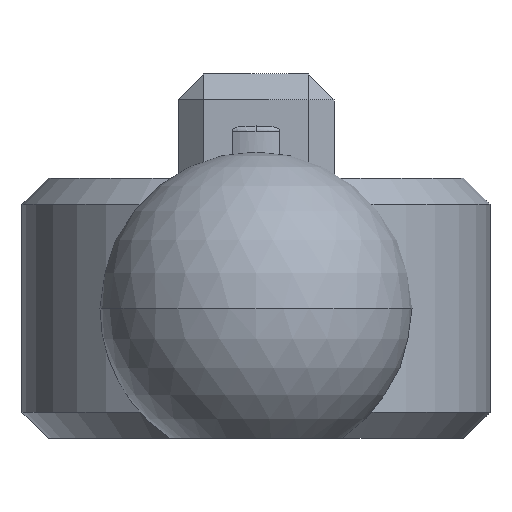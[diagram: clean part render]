
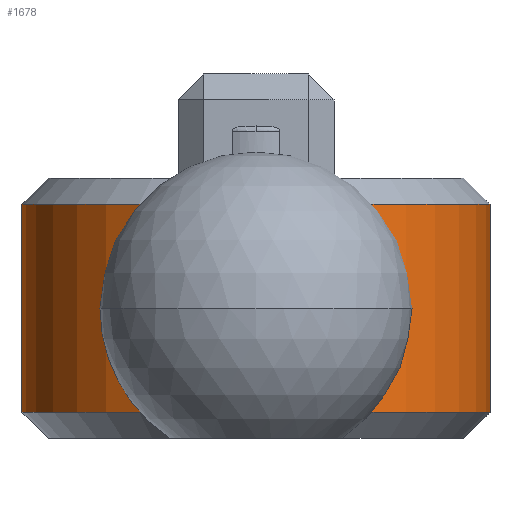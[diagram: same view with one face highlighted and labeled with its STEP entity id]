
A CAD part, front view. The second image highlights one B-rep face of the part: STEP entity #1678.
In plain terms, the highlighted cylindrical face has radius 4.5 mm (diameter 9 mm), a partial arc.
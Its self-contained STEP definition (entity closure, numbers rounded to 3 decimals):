
#45 = CARTESIAN_POINT ( 'NONE',  ( 0.1, 0., 4. ) ) ;
#86 = DIRECTION ( 'NONE',  ( 0., 0., 1. ) ) ;
#99 = CARTESIAN_POINT ( 'NONE',  ( -4.5, 4.5, 2.5 ) ) ;
#141 = B_SPLINE_CURVE_WITH_KNOTS ( 'NONE', 3,
 ( #1897, #1515, #672, #1694, #2533, #1297, #492, #2118, #2332, #275, #1090, #1723, #1307, #2129, #1528, #1101, #2343, #1923, #2546, #703, #997, #2632, #1773, #2002, #980, #1176, #1584, #1186 ),
 .UNSPECIFIED., .F., .F.,
 ( 4, 2, 2, 2, 2, 2, 2, 2, 2, 2, 2, 2, 2, 4 ),
 ( 0.005, 0.005, 0.006, 0.006, 0.006, 0.007, 0.007, 0.007, 0.008, 0.008, 0.009, 0.009, 0.009, 0.009 ),
 .UNSPECIFIED. ) ;
#275 = CARTESIAN_POINT ( 'NONE',  ( -1.423, 0.231, 2.015 ) ) ;
#301 = CARTESIAN_POINT ( 'NONE',  ( 1.198, 0.16, 3.423 ) ) ;
#304 = EDGE_CURVE ( 'NONE', #789, #918, #1796, .T. ) ;
#317 = CARTESIAN_POINT ( 'NONE',  ( 0.666, 0.049, 1.153 ) ) ;
#463 = CARTESIAN_POINT ( 'NONE',  ( 0.395, 0.014, 1.04 ) ) ;
#479 = AXIS2_PLACEMENT_3D ( 'NONE', #1719, #86, #2542 ) ;
#485 = CARTESIAN_POINT ( 'NONE',  ( 4.5, 4.5, 0.5 ) ) ;
#492 = CARTESIAN_POINT ( 'NONE',  ( -0.992, 0.11, 1.37 ) ) ;
#514 = CIRCLE ( 'NONE', #1754, 4.5 ) ;
#519 = CARTESIAN_POINT ( 'NONE',  ( 0.916, 0.093, 1.308 ) ) ;
#581 = CARTESIAN_POINT ( 'NONE',  ( 4.5, 4.5, 4.5 ) ) ;
#656 = ORIENTED_EDGE ( 'NONE', *, *, #2492, .T. ) ;
#671 = CARTESIAN_POINT ( 'NONE',  ( 1.5, 0.257, 2.698 ) ) ;
#672 = CARTESIAN_POINT ( 'NONE',  ( -0.395, 0.014, 1.04 ) ) ;
#689 = CARTESIAN_POINT ( 'NONE',  ( 0.754, 0.063, 1.2 ) ) ;
#703 = CARTESIAN_POINT ( 'NONE',  ( -0.992, 0.11, 3.629 ) ) ;
#712 = VERTEX_POINT ( 'NONE', #1370 ) ;
#732 = VECTOR ( 'NONE', #1360, 1000. ) ;
#736 = EDGE_CURVE ( 'NONE', #918, #2566, #1572, .T. ) ;
#789 = VERTEX_POINT ( 'NONE', #1466 ) ;
#822 = DIRECTION ( 'NONE',  ( 0., 0., 1. ) ) ;
#871 = CARTESIAN_POINT ( 'NONE',  ( 0.758, 0.061, 3.809 ) ) ;
#873 = EDGE_CURVE ( 'NONE', #712, #2566, #514, .T. ) ;
#898 = CARTESIAN_POINT ( 'NONE',  ( 1.423, 0.231, 2.015 ) ) ;
#916 = EDGE_LOOP ( 'NONE', ( #1198, #656 ) ) ;
#918 = VERTEX_POINT ( 'NONE', #485 ) ;
#980 = CARTESIAN_POINT ( 'NONE',  ( -0.391, 0.016, 3.952 ) ) ;
#981 = AXIS2_PLACEMENT_3D ( 'NONE', #1427, #822, #2251 ) ;
#997 = CARTESIAN_POINT ( 'NONE',  ( -0.916, 0.093, 3.692 ) ) ;
#1088 = CARTESIAN_POINT ( 'NONE',  ( 0.198, 0.003, 3.99 ) ) ;
#1090 = CARTESIAN_POINT ( 'NONE',  ( -1.451, 0.24, 2.109 ) ) ;
#1100 = CARTESIAN_POINT ( 'NONE',  ( 1.198, 0.16, 1.577 ) ) ;
#1101 = CARTESIAN_POINT ( 'NONE',  ( -1.452, 0.241, 2.891 ) ) ;
#1119 = CARTESIAN_POINT ( 'NONE',  ( 1.309, 0.194, 1.741 ) ) ;
#1131 = CARTESIAN_POINT ( 'NONE',  ( 1.451, 0.24, 2.109 ) ) ;
#1176 = CARTESIAN_POINT ( 'NONE',  ( -0.198, 0.003, 3.99 ) ) ;
#1186 = CARTESIAN_POINT ( 'NONE',  ( 0., 0., 4. ) ) ;
#1198 = ORIENTED_EDGE ( 'NONE', *, *, #1361, .T. ) ;
#1208 = B_SPLINE_CURVE_WITH_KNOTS ( 'NONE', 3,
 ( #1907, #45, #1088, #1527, #2306, #871, #2518, #301, #2356, #2532, #671, #2342, #2159, #1131, #898, #1119, #1100, #1502, #519, #689, #317, #463, #1952, #1282 ),
 .UNSPECIFIED., .F., .F.,
 ( 4, 2, 2, 2, 2, 2, 2, 2, 2, 2, 2, 4 ),
 ( 0., 0., 0.001, 0.001, 0.002, 0.002, 0.003, 0.003, 0.004, 0.004, 0.004, 0.005 ),
 .UNSPECIFIED. ) ;
#1243 = DIRECTION ( 'NONE',  ( 0., 0., 1. ) ) ;
#1253 = ORIENTED_EDGE ( 'NONE', *, *, #1779, .F. ) ;
#1282 = CARTESIAN_POINT ( 'NONE',  ( 0., 0., 1. ) ) ;
#1297 = CARTESIAN_POINT ( 'NONE',  ( -0.917, 0.094, 1.309 ) ) ;
#1307 = CARTESIAN_POINT ( 'NONE',  ( -1.5, 0.257, 2.401 ) ) ;
#1360 = DIRECTION ( 'NONE',  ( 0., 0., 1. ) ) ;
#1361 = EDGE_CURVE ( 'NONE', #2330, #2220, #1208, .T. ) ;
#1370 = CARTESIAN_POINT ( 'NONE',  ( -4.5, 4.5, 4.5 ) ) ;
#1427 = CARTESIAN_POINT ( 'NONE',  ( 0., 4.5, 0.5 ) ) ;
#1466 = CARTESIAN_POINT ( 'NONE',  ( -4.5, 4.5, 0.5 ) ) ;
#1501 = ORIENTED_EDGE ( 'NONE', *, *, #873, .F. ) ;
#1502 = CARTESIAN_POINT ( 'NONE',  ( 0.991, 0.11, 1.37 ) ) ;
#1505 = ORIENTED_EDGE ( 'NONE', *, *, #736, .T. ) ;
#1515 = CARTESIAN_POINT ( 'NONE',  ( -0.197, 0., 1. ) ) ;
#1527 = CARTESIAN_POINT ( 'NONE',  ( 0.391, 0.016, 3.952 ) ) ;
#1528 = CARTESIAN_POINT ( 'NONE',  ( -1.49, 0.254, 2.697 ) ) ;
#1572 = LINE ( 'NONE', #1791, #2569 ) ;
#1584 = CARTESIAN_POINT ( 'NONE',  ( -0.1, 0., 4. ) ) ;
#1607 = CARTESIAN_POINT ( 'NONE',  ( 0., 0., 1. ) ) ;
#1678 = ADVANCED_FACE ( 'NONE', ( #2329, #2555 ), #1680, .T. ) ;
#1680 = CYLINDRICAL_SURFACE ( 'NONE', #479, 4.5 ) ;
#1694 = CARTESIAN_POINT ( 'NONE',  ( -0.667, 0.049, 1.153 ) ) ;
#1706 = ORIENTED_EDGE ( 'NONE', *, *, #304, .T. ) ;
#1719 = CARTESIAN_POINT ( 'NONE',  ( 0., 4.5, 2.5 ) ) ;
#1723 = CARTESIAN_POINT ( 'NONE',  ( -1.49, 0.254, 2.301 ) ) ;
#1754 = AXIS2_PLACEMENT_3D ( 'NONE', #1842, #1243, #1827 ) ;
#1773 = CARTESIAN_POINT ( 'NONE',  ( -0.668, 0.049, 3.847 ) ) ;
#1779 = EDGE_CURVE ( 'NONE', #789, #712, #2584, .T. ) ;
#1791 = CARTESIAN_POINT ( 'NONE',  ( 4.5, 4.5, 2.5 ) ) ;
#1796 = CIRCLE ( 'NONE', #981, 4.5 ) ;
#1827 = DIRECTION ( 'NONE',  ( 1., 0., 0. ) ) ;
#1842 = CARTESIAN_POINT ( 'NONE',  ( 0., 4.5, 4.5 ) ) ;
#1853 = DIRECTION ( 'NONE',  ( 0., 0., 1. ) ) ;
#1897 = CARTESIAN_POINT ( 'NONE',  ( 0., 0., 1. ) ) ;
#1907 = CARTESIAN_POINT ( 'NONE',  ( 0., 0., 4. ) ) ;
#1923 = CARTESIAN_POINT ( 'NONE',  ( -1.31, 0.194, 3.257 ) ) ;
#1952 = CARTESIAN_POINT ( 'NONE',  ( 0.197, 0., 1. ) ) ;
#2002 = CARTESIAN_POINT ( 'NONE',  ( -0.486, 0.025, 3.922 ) ) ;
#2053 = EDGE_LOOP ( 'NONE', ( #1253, #1706, #1505, #1501 ) ) ;
#2086 = CARTESIAN_POINT ( 'NONE',  ( 0., 0., 4. ) ) ;
#2118 = CARTESIAN_POINT ( 'NONE',  ( -1.199, 0.16, 1.578 ) ) ;
#2129 = CARTESIAN_POINT ( 'NONE',  ( -1.5, 0.257, 2.599 ) ) ;
#2159 = CARTESIAN_POINT ( 'NONE',  ( 1.49, 0.254, 2.302 ) ) ;
#2220 = VERTEX_POINT ( 'NONE', #1607 ) ;
#2251 = DIRECTION ( 'NONE',  ( 1., 0., 0. ) ) ;
#2306 = CARTESIAN_POINT ( 'NONE',  ( 0.486, 0.025, 3.922 ) ) ;
#2329 = FACE_OUTER_BOUND ( 'NONE', #2053, .T. ) ;
#2330 = VERTEX_POINT ( 'NONE', #2086 ) ;
#2332 = CARTESIAN_POINT ( 'NONE',  ( -1.309, 0.194, 1.742 ) ) ;
#2342 = CARTESIAN_POINT ( 'NONE',  ( 1.5, 0.257, 2.402 ) ) ;
#2343 = CARTESIAN_POINT ( 'NONE',  ( -1.422, 0.231, 2.986 ) ) ;
#2356 = CARTESIAN_POINT ( 'NONE',  ( 1.31, 0.194, 3.257 ) ) ;
#2492 = EDGE_CURVE ( 'NONE', #2220, #2330, #141, .T. ) ;
#2518 = CARTESIAN_POINT ( 'NONE',  ( 0.924, 0.094, 3.698 ) ) ;
#2532 = CARTESIAN_POINT ( 'NONE',  ( 1.46, 0.243, 2.896 ) ) ;
#2533 = CARTESIAN_POINT ( 'NONE',  ( -0.755, 0.063, 1.2 ) ) ;
#2542 = DIRECTION ( 'NONE',  ( 1., 0., 0. ) ) ;
#2546 = CARTESIAN_POINT ( 'NONE',  ( -1.198, 0.16, 3.423 ) ) ;
#2555 = FACE_BOUND ( 'NONE', #916, .T. ) ;
#2566 = VERTEX_POINT ( 'NONE', #581 ) ;
#2569 = VECTOR ( 'NONE', #1853, 1000. ) ;
#2584 = LINE ( 'NONE', #99, #732 ) ;
#2632 = CARTESIAN_POINT ( 'NONE',  ( -0.753, 0.063, 3.801 ) ) ;
